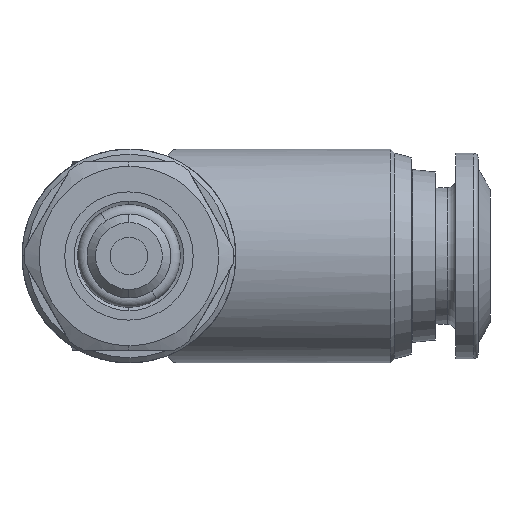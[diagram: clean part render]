
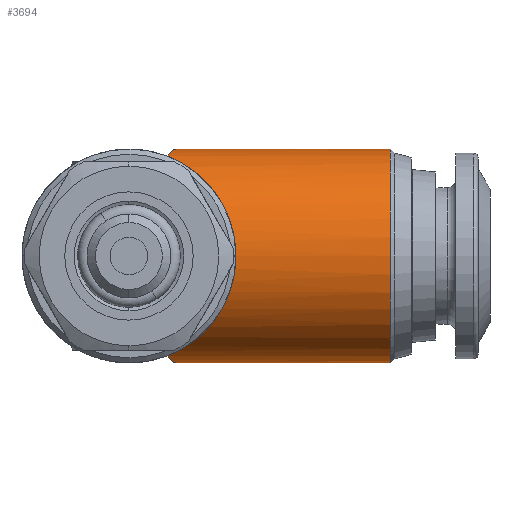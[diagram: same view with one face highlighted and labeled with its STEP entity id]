
A CAD part, front view. The second image highlights one B-rep face of the part: STEP entity #3694.
In plain terms, the highlighted cylindrical face has radius 6.25 mm (diameter 12.5 mm), a partial arc.
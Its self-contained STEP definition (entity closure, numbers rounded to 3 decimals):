
#141=CYLINDRICAL_SURFACE('',#4262,6.25);
#220=LINE('',#6443,#480);
#221=LINE('',#6447,#481);
#480=VECTOR('',#4930,12.443);
#481=VECTOR('',#4933,12.443);
#706=B_SPLINE_CURVE_WITH_KNOTS('',3,(#6449,#6450,#6451,#6452,#6453,#6454,
#6455),.UNSPECIFIED.,.F.,.F.,(4,3,4),(0.,0.5,1.),
 .UNSPECIFIED.);
#707=B_SPLINE_CURVE_WITH_KNOTS('',3,(#6457,#6458,#6459,#6460,#6461,#6462,
#6463,#6464,#6465,#6466,#6467,#6468,#6469,#6470,#6471,#6472,#6473,#6474,
#6475),.UNSPECIFIED.,.F.,.F.,(4,3,3,3,3,3,4),(0.,0.125,0.25,0.375,0.5,0.75,
1.),.UNSPECIFIED.);
#708=B_SPLINE_CURVE_WITH_KNOTS('',3,(#6477,#6478,#6479,#6480,#6481,#6482,
#6483,#6484,#6485,#6486,#6487,#6488,#6489,#6490,#6491,#6492,#6493,#6494,
#6495),.UNSPECIFIED.,.F.,.F.,(4,3,3,3,3,3,4),(0.,0.25,0.5,0.625,0.75,0.875,
1.),.UNSPECIFIED.);
#709=B_SPLINE_CURVE_WITH_KNOTS('',3,(#6496,#6497,#6498,#6499,#6500,#6501,
#6502),.UNSPECIFIED.,.F.,.F.,(4,3,4),(0.,0.5,1.),.UNSPECIFIED.);
#865=FACE_OUTER_BOUND('',#1015,.T.);
#1015=EDGE_LOOP('',(#3000,#3001,#3002,#3003,#3004,#3005,#3006));
#1246=CIRCLE('',#4263,6.25);
#1628=VERTEX_POINT('',#6441);
#1629=VERTEX_POINT('',#6442);
#1630=VERTEX_POINT('',#6444);
#1631=VERTEX_POINT('',#6446);
#1632=VERTEX_POINT('',#6448);
#1633=VERTEX_POINT('',#6456);
#1634=VERTEX_POINT('',#6476);
#2314=EDGE_CURVE('',#1628,#1629,#220,.T.);
#2315=EDGE_CURVE('',#1629,#1630,#1246,.T.);
#2316=EDGE_CURVE('',#1630,#1631,#221,.T.);
#2317=EDGE_CURVE('',#1631,#1632,#706,.T.);
#2318=EDGE_CURVE('',#1632,#1633,#707,.T.);
#2319=EDGE_CURVE('',#1633,#1634,#708,.T.);
#2320=EDGE_CURVE('',#1634,#1628,#709,.T.);
#3000=ORIENTED_EDGE('',*,*,#2314,.T.);
#3001=ORIENTED_EDGE('',*,*,#2315,.T.);
#3002=ORIENTED_EDGE('',*,*,#2316,.T.);
#3003=ORIENTED_EDGE('',*,*,#2317,.T.);
#3004=ORIENTED_EDGE('',*,*,#2318,.T.);
#3005=ORIENTED_EDGE('',*,*,#2319,.T.);
#3006=ORIENTED_EDGE('',*,*,#2320,.T.);
#3694=ADVANCED_FACE('',(#865),#141,.T.);
#4262=AXIS2_PLACEMENT_3D('',#6440,#4928,#4929);
#4263=AXIS2_PLACEMENT_3D('',#6445,#4931,#4932);
#4928=DIRECTION('center_axis',(-1.,0.,0.));
#4929=DIRECTION('ref_axis',(0.,0.,1.));
#4930=DIRECTION('',(1.,0.,0.));
#4931=DIRECTION('center_axis',(-1.,0.,0.));
#4932=DIRECTION('ref_axis',(0.,0.,
-1.));
#4933=DIRECTION('',(-1.,0.,0.));
#6440=CARTESIAN_POINT('Origin',(8.709,0.,0.));
#6441=CARTESIAN_POINT('',(2.825,0.,-6.25));
#6442=CARTESIAN_POINT('',(15.268,0.,-6.25));
#6443=CARTESIAN_POINT('',(2.825,0.,-6.25));
#6444=CARTESIAN_POINT('',(15.268,0.,6.25));
#6445=CARTESIAN_POINT('Origin',(15.268,0.,
0.));
#6446=CARTESIAN_POINT('',(2.825,0.,6.25));
#6447=CARTESIAN_POINT('',(15.268,0.,6.25));
#6448=CARTESIAN_POINT('',(2.228,-2.228,5.839));
#6449=CARTESIAN_POINT('Ctrl Pts',(2.825,0.,
6.25));
#6450=CARTESIAN_POINT('Ctrl Pts',(2.69,-0.506,6.25));
#6451=CARTESIAN_POINT('Ctrl Pts',(2.589,-0.884,6.196));
#6452=CARTESIAN_POINT('Ctrl Pts',(2.5,-1.215,6.131));
#6453=CARTESIAN_POINT('Ctrl Pts',(2.411,-1.546,6.065));
#6454=CARTESIAN_POINT('Ctrl Pts',(2.313,-1.912,5.96));
#6455=CARTESIAN_POINT('Ctrl Pts',(2.228,-2.228,5.839));
#6456=CARTESIAN_POINT('',(6.25,-6.25,0.));
#6457=CARTESIAN_POINT('Ctrl Pts',(2.228,-2.228,5.839));
#6458=CARTESIAN_POINT('Ctrl Pts',(2.537,-2.537,5.721));
#6459=CARTESIAN_POINT('Ctrl Pts',(2.821,-2.822,5.585));
#6460=CARTESIAN_POINT('Ctrl Pts',(3.093,-3.093,5.431));
#6461=CARTESIAN_POINT('Ctrl Pts',(3.364,-3.363,5.277));
#6462=CARTESIAN_POINT('Ctrl Pts',(3.624,-3.625,5.101));
#6463=CARTESIAN_POINT('Ctrl Pts',(3.87,-3.87,4.908));
#6464=CARTESIAN_POINT('Ctrl Pts',(4.116,-4.115,4.714));
#6465=CARTESIAN_POINT('Ctrl Pts',(4.347,-4.348,4.501));
#6466=CARTESIAN_POINT('Ctrl Pts',(4.561,-4.561,4.273));
#6467=CARTESIAN_POINT('Ctrl Pts',(4.776,-4.775,4.044));
#6468=CARTESIAN_POINT('Ctrl Pts',(4.973,-4.973,3.799));
#6469=CARTESIAN_POINT('Ctrl Pts',(5.153,-5.153,3.537));
#6470=CARTESIAN_POINT('Ctrl Pts',(5.512,-5.512,3.015));
#6471=CARTESIAN_POINT('Ctrl Pts',(5.786,-5.787,2.442));
#6472=CARTESIAN_POINT('Ctrl Pts',(5.971,-5.971,1.847));
#6473=CARTESIAN_POINT('Ctrl Pts',(6.156,-6.155,1.252));
#6474=CARTESIAN_POINT('Ctrl Pts',(6.25,-6.25,0.623));
#6475=CARTESIAN_POINT('Ctrl Pts',(6.25,-6.25,0.));
#6476=CARTESIAN_POINT('',(2.228,-2.228,-5.839));
#6477=CARTESIAN_POINT('Ctrl Pts',(6.25,-6.25,0.));
#6478=CARTESIAN_POINT('Ctrl Pts',(6.25,-6.25,-0.623));
#6479=CARTESIAN_POINT('Ctrl Pts',(6.156,-6.155,-1.252));
#6480=CARTESIAN_POINT('Ctrl Pts',(5.971,-5.971,-1.847));
#6481=CARTESIAN_POINT('Ctrl Pts',(5.786,-5.787,-2.442));
#6482=CARTESIAN_POINT('Ctrl Pts',(5.512,-5.512,-3.015));
#6483=CARTESIAN_POINT('Ctrl Pts',(5.153,-5.153,-3.537));
#6484=CARTESIAN_POINT('Ctrl Pts',(4.973,-4.973,-3.799));
#6485=CARTESIAN_POINT('Ctrl Pts',(4.776,-4.775,-4.044));
#6486=CARTESIAN_POINT('Ctrl Pts',(4.561,-4.561,-4.273));
#6487=CARTESIAN_POINT('Ctrl Pts',(4.347,-4.348,-4.501));
#6488=CARTESIAN_POINT('Ctrl Pts',(4.116,-4.115,-4.714));
#6489=CARTESIAN_POINT('Ctrl Pts',(3.87,-3.87,-4.908));
#6490=CARTESIAN_POINT('Ctrl Pts',(3.624,-3.625,-5.101));
#6491=CARTESIAN_POINT('Ctrl Pts',(3.364,-3.363,-5.277));
#6492=CARTESIAN_POINT('Ctrl Pts',(3.093,-3.093,-5.431));
#6493=CARTESIAN_POINT('Ctrl Pts',(2.821,-2.822,-5.585));
#6494=CARTESIAN_POINT('Ctrl Pts',(2.537,-2.537,-5.721));
#6495=CARTESIAN_POINT('Ctrl Pts',(2.228,-2.228,-5.839));
#6496=CARTESIAN_POINT('Ctrl Pts',(2.228,-2.228,-5.839));
#6497=CARTESIAN_POINT('Ctrl Pts',(2.313,-1.912,-5.96));
#6498=CARTESIAN_POINT('Ctrl Pts',(2.411,-1.546,-6.065));
#6499=CARTESIAN_POINT('Ctrl Pts',(2.5,-1.215,-6.131));
#6500=CARTESIAN_POINT('Ctrl Pts',(2.589,-0.884,-6.196));
#6501=CARTESIAN_POINT('Ctrl Pts',(2.69,-0.506,-6.25));
#6502=CARTESIAN_POINT('Ctrl Pts',(2.825,0.,
-6.25));
